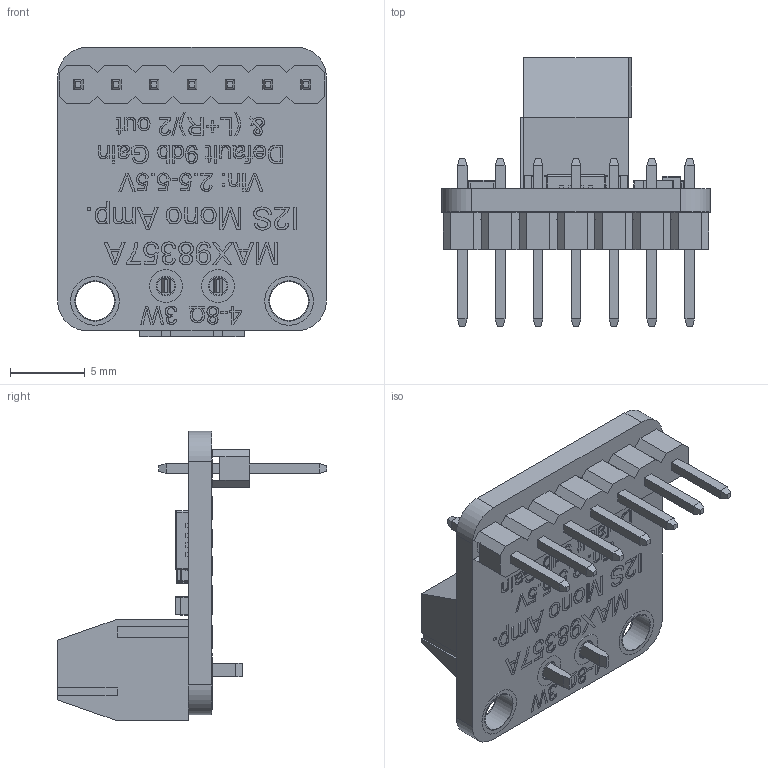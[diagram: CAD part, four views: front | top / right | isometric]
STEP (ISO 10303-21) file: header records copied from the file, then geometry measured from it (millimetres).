
FILE_DESCRIPTION(/* description */ (''),/* implementation_level */ '2;1');
FILE_NAME(/* name */ 'MAX98357A_3W_I2S_AMP v27.step',/* time_stamp */ '2023-12-29T20:52:09Z',/* author */ (''),/* organization */ (''),/* preprocessor_version */ 'ST-DEVELOPER v20',/* originating_system */ 'Autodesk Translation Framework v12.14.0.127',/* authorisation */ '');
FILE_SCHEMA (('AUTOMOTIVE_DESIGN { 1 0 10303 214 3 1 1 }'));
Products named in the file (54): MAX98357A_3W_I2S_AMP; PCB; PCB_Terminal_Block_2-P3.5; Body019; Body020; Body021; M1.6x4-Screw030; Body022; Body023; Body024; QFN-16 (4x4x0.9); QFN-16 (4x4x0.9)_1; Part 12; Part 11; Part 13; Part 14; Part 18; Part 17; Part 15; Part 16; Part 10; Part 9; Part 7; Part 8; Part 6; Part 5; Part 3; Part 4; Part 2; Part 1; 0805 Ferrite; C0805_060; C0805_060_1; C0805_060_2; C0805_060_3; C0805_060_4; C0805_060_5; Part 3_1; Part 2_1; Part 1_1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
Assembly tree (60 placements, depth 4):
  MAX98357A_3W_I2S_AMP
    PCB
    PCB_Terminal_Block_2-P3.5
      Body019
      Body020
      Body021
      M1.6x4-Screw030
      Body022
      Body023
      Body024
    QFN-16 (4x4x0.9)
      QFN-16 (4x4x0.9)_1
        Part 12
        Part 11
        Part 13
        Part 14
        Part 18
        Part 17
        Part 15
        Part 16
        Part 10
        Part 9
        Part 7
        Part 8
        Part 6
        Part 5
        Part 3
        Part 4
        Part 2
        Part 1
    0805 Ferrite  x2
    C0805_060
      C0805_060_1
        Part 3_1
        Part 2_1
        Part 1_1
    C0805_060_2
      C0805_060_3
        Part 3_1
        Part 2_1
        Part 1_1
    C0805_060_4
      C0805_060_5
        Part 3_1
        Part 2_1
        Part 1_1
    C0805_085
      C0805_085_1
        Part 3_2
        Part 2_2
        Part 1_2
    R0805_detailed
      R0805_detailed_1
        Part 6_1
        Part 5_1
        Part 4_1
        Part 3_3
        Part 2_3
        Part 1_3
    Header
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Bounding box: 18 x 18.03 x 19.4 mm (x, y, z)
Volume: 960.2 mm3; surface area: 2729.7 mm2
Topology: 131 solids, 131 shells, 3140 faces, 8152 edges, 5316 vertices
Faces by surface type: plane 1643, bspline 1177, cylinder 260, sphere 52, torus 6, cone 2
Full cylindrical faces by diameter (mm): 0.5 x2, 1.2 x9, 1.25 x4, 1.3 x9, 1.5 x2, 1.6 x2, 1.8 x2, 1.9 x8, 2.1 x2, 2.2 x2, 2.6 x2, 2.7 x2, 3.1 x2, 3.25 x2
Entity records: 104293 total; most frequent: CARTESIAN_POINT 36268, ORIENTED_EDGE 15624, DIRECTION 9736, EDGE_CURVE 7812, VERTEX_POINT 5148, LINE 5016, VECTOR 5016, EDGE_LOOP 3224
